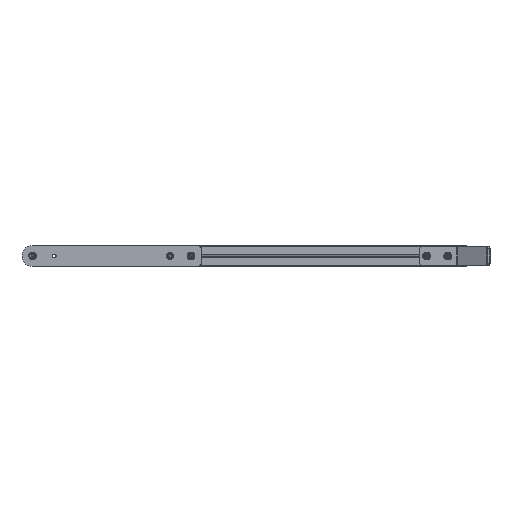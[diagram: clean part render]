
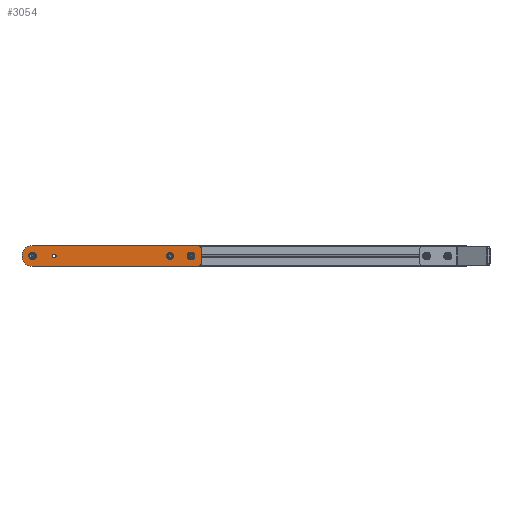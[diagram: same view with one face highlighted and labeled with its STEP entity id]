
A CAD part, left-side view. The second image highlights one B-rep face of the part: STEP entity #3054.
In plain terms, the highlighted planar face has unit normal (-1, 0, 0) as drawn and (0, 0, 1) by its records, which use the part's own axes.
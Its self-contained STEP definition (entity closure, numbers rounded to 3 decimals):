
#135 = CARTESIAN_POINT ( 'NONE',  ( 12.5, -350., 8. ) ) ;
#235 = EDGE_CURVE ( 'NONE', #11321, #10352, #7057, .T. ) ;
#310 = VERTEX_POINT ( 'NONE', #4018 ) ;
#394 = ORIENTED_EDGE ( 'NONE', *, *, #2157, .T. ) ;
#560 = EDGE_LOOP ( 'NONE', ( #5344 ) ) ;
#624 = AXIS2_PLACEMENT_3D ( 'NONE', #135, #3179, #1124 ) ;
#626 = LINE ( 'NONE', #8808, #6441 ) ;
#852 = CARTESIAN_POINT ( 'NONE',  ( 22.5, 0., 8. ) ) ;
#986 = EDGE_CURVE ( 'NONE', #310, #310, #5145, .T. ) ;
#1124 = DIRECTION ( 'NONE',  ( -1., 0., 0. ) ) ;
#1159 = ORIENTED_EDGE ( 'NONE', *, *, #4769, .T. ) ;
#1302 = VERTEX_POINT ( 'NONE', #4990 ) ;
#1356 = DIRECTION ( 'NONE',  ( 1., 0., 0. ) ) ;
#1677 = AXIS2_PLACEMENT_3D ( 'NONE', #11437, #10948, #8132 ) ;
#1718 = CARTESIAN_POINT ( 'NONE',  ( 22.5, -350., 8. ) ) ;
#1805 = DIRECTION ( 'NONE',  ( 1., 0., 0. ) ) ;
#1956 = CARTESIAN_POINT ( 'NONE',  ( -12.5, -360., 8. ) ) ;
#2149 = AXIS2_PLACEMENT_3D ( 'NONE', #2252, #9623, #1356 ) ;
#2157 = EDGE_CURVE ( 'NONE', #3069, #9735, #3919, .T. ) ;
#2196 = EDGE_LOOP ( 'NONE', ( #9448 ) ) ;
#2252 = CARTESIAN_POINT ( 'NONE',  ( 0., -337.5, 8. ) ) ;
#2351 = DIRECTION ( 'NONE',  ( -1., 0., 0. ) ) ;
#2635 = CARTESIAN_POINT ( 'NONE',  ( -22.5, 0., 8. ) ) ;
#2652 = DIRECTION ( 'NONE',  ( 1., 0., 0. ) ) ;
#3054 = ADVANCED_FACE ( 'NONE', ( #6567, #10268, #5675, #11244, #11682 ), #3339, .F. ) ;
#3069 = VERTEX_POINT ( 'NONE', #3217 ) ;
#3072 = CARTESIAN_POINT ( 'NONE',  ( 0., 0., 8. ) ) ;
#3129 = DIRECTION ( 'NONE',  ( -1., 0., 0. ) ) ;
#3179 = DIRECTION ( 'NONE',  ( 0., 0., 1. ) ) ;
#3217 = CARTESIAN_POINT ( 'NONE',  ( 12.5, -360., 8. ) ) ;
#3236 = EDGE_CURVE ( 'NONE', #3711, #3069, #10144, .T. ) ;
#3339 = PLANE ( 'NONE',  #11496 ) ;
#3393 = ORIENTED_EDGE ( 'NONE', *, *, #3236, .T. ) ;
#3401 = CARTESIAN_POINT ( 'NONE',  ( 12.5, -350., 8. ) ) ;
#3615 = CIRCLE ( 'NONE', #8598, 4.25 ) ;
#3689 = DIRECTION ( 'NONE',  ( 0., 0., 1. ) ) ;
#3711 = VERTEX_POINT ( 'NONE', #1956 ) ;
#3906 = ORIENTED_EDGE ( 'NONE', *, *, #5444, .T. ) ;
#3919 = CIRCLE ( 'NONE', #624, 10. ) ;
#3998 = EDGE_CURVE ( 'NONE', #1302, #1302, #6979, .T. ) ;
#4018 = CARTESIAN_POINT ( 'NONE',  ( 4.25, 0., 8. ) ) ;
#4651 = CARTESIAN_POINT ( 'NONE',  ( 0., -46., 8. ) ) ;
#4732 = DIRECTION ( 'NONE',  ( 0., 0., 1. ) ) ;
#4769 = EDGE_CURVE ( 'NONE', #10214, #3711, #5467, .T. ) ;
#4943 = ORIENTED_EDGE ( 'NONE', *, *, #235, .T. ) ;
#4990 = CARTESIAN_POINT ( 'NONE',  ( 4.25, -337.5, 8. ) ) ;
#5145 = CIRCLE ( 'NONE', #1677, 4.25 ) ;
#5186 = CARTESIAN_POINT ( 'NONE',  ( -12.5, -350., 8. ) ) ;
#5344 = ORIENTED_EDGE ( 'NONE', *, *, #9852, .F. ) ;
#5371 = DIRECTION ( 'NONE',  ( 0., 1., 0. ) ) ;
#5374 = CARTESIAN_POINT ( 'NONE',  ( -12.5, -360., 8. ) ) ;
#5444 = EDGE_CURVE ( 'NONE', #10352, #10214, #626, .T. ) ;
#5467 = CIRCLE ( 'NONE', #8745, 10. ) ;
#5675 = FACE_BOUND ( 'NONE', #2196, .T. ) ;
#5705 = EDGE_LOOP ( 'NONE', ( #394, #10157, #4943, #3906, #1159, #3393 ) ) ;
#5864 = VECTOR ( 'NONE', #1805, 1000. ) ;
#6441 = VECTOR ( 'NONE', #7878, 1000. ) ;
#6567 = FACE_BOUND ( 'NONE', #9011, .T. ) ;
#6979 = CIRCLE ( 'NONE', #2149, 4.25 ) ;
#7019 = EDGE_LOOP ( 'NONE', ( #9333 ) ) ;
#7057 = CIRCLE ( 'NONE', #11125, 22.5 ) ;
#7265 = VERTEX_POINT ( 'NONE', #10849 ) ;
#7399 = EDGE_CURVE ( 'NONE', #9735, #11321, #8999, .T. ) ;
#7423 = EDGE_CURVE ( 'NONE', #11599, #11599, #3615, .T. ) ;
#7878 = DIRECTION ( 'NONE',  ( 0., -1., 0. ) ) ;
#8132 = DIRECTION ( 'NONE',  ( 1., 0., 0. ) ) ;
#8306 = CARTESIAN_POINT ( 'NONE',  ( 22.5, 0., 8. ) ) ;
#8537 = DIRECTION ( 'NONE',  ( 0., 0., 1. ) ) ;
#8598 = AXIS2_PLACEMENT_3D ( 'NONE', #4651, #3689, #2652 ) ;
#8689 = DIRECTION ( 'NONE',  ( 0., 0., -1. ) ) ;
#8745 = AXIS2_PLACEMENT_3D ( 'NONE', #5186, #11564, #8920 ) ;
#8808 = CARTESIAN_POINT ( 'NONE',  ( -22.5, 0., 8. ) ) ;
#8888 = ORIENTED_EDGE ( 'NONE', *, *, #3998, .F. ) ;
#8920 = DIRECTION ( 'NONE',  ( 1., 0., 0. ) ) ;
#8999 = LINE ( 'NONE', #8306, #11536 ) ;
#9011 = EDGE_LOOP ( 'NONE', ( #8888 ) ) ;
#9306 = CARTESIAN_POINT ( 'NONE',  ( 0., -292.5, 8. ) ) ;
#9333 = ORIENTED_EDGE ( 'NONE', *, *, #986, .F. ) ;
#9419 = AXIS2_PLACEMENT_3D ( 'NONE', #9306, #4732, #11382 ) ;
#9448 = ORIENTED_EDGE ( 'NONE', *, *, #7423, .F. ) ;
#9623 = DIRECTION ( 'NONE',  ( 0., 0., 1. ) ) ;
#9685 = CARTESIAN_POINT ( 'NONE',  ( 4.25, -46., 8. ) ) ;
#9735 = VERTEX_POINT ( 'NONE', #1718 ) ;
#9852 = EDGE_CURVE ( 'NONE', #7265, #7265, #11581, .T. ) ;
#10144 = LINE ( 'NONE', #5374, #5864 ) ;
#10157 = ORIENTED_EDGE ( 'NONE', *, *, #7399, .T. ) ;
#10214 = VERTEX_POINT ( 'NONE', #10569 ) ;
#10268 = FACE_BOUND ( 'NONE', #560, .T. ) ;
#10352 = VERTEX_POINT ( 'NONE', #2635 ) ;
#10569 = CARTESIAN_POINT ( 'NONE',  ( -22.5, -350., 8. ) ) ;
#10849 = CARTESIAN_POINT ( 'NONE',  ( 4.25, -292.5, 8. ) ) ;
#10948 = DIRECTION ( 'NONE',  ( 0., 0., 1. ) ) ;
#11125 = AXIS2_PLACEMENT_3D ( 'NONE', #3072, #8537, #3129 ) ;
#11244 = FACE_BOUND ( 'NONE', #7019, .T. ) ;
#11321 = VERTEX_POINT ( 'NONE', #852 ) ;
#11382 = DIRECTION ( 'NONE',  ( 1., 0., 0. ) ) ;
#11437 = CARTESIAN_POINT ( 'NONE',  ( 0., 0., 8. ) ) ;
#11496 = AXIS2_PLACEMENT_3D ( 'NONE', #3401, #8689, #2351 ) ;
#11536 = VECTOR ( 'NONE', #5371, 1000. ) ;
#11564 = DIRECTION ( 'NONE',  ( 0., 0., 1. ) ) ;
#11581 = CIRCLE ( 'NONE', #9419, 4.25 ) ;
#11599 = VERTEX_POINT ( 'NONE', #9685 ) ;
#11682 = FACE_OUTER_BOUND ( 'NONE', #5705, .T. ) ;
